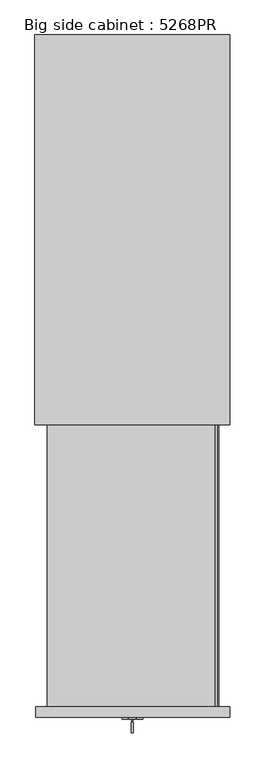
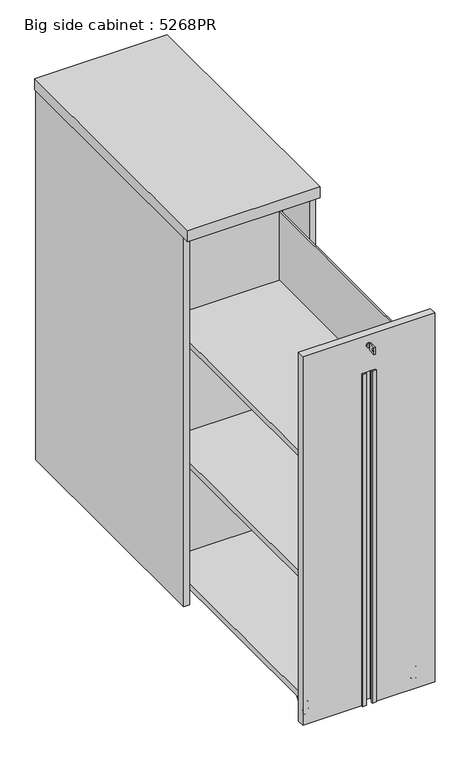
"""IFC4 building model written with IfcOpenShell, lengths in millimetres: furniture geometry, Big side cabinet : 5268PR."""

from ifc_helpers import new_model, si_unit, point, frame, frame_2d, origin, origin_with_axes, place, context, project, spatial, polyline, circle_curve, ellipse_curve, trimmed, segment, composite_curve, outline, extrude, source, transform, mapped, element, save
from ifc_brep_helpers import plane_surface, cylinder_surface, revolved_surface, advanced_brep


def big_side_cabinet_5268pr_65438aac(model_context):
    return source(origin(), model_context, "Body", "SolidModel", [
        extrude(outline(polyline([(1.5783188, 20.1617145), (1.5783188, 10.1617145), (-8.4216812, 10.1617145), (-8.4216812, 20.1617145), (1.5783188, 20.1617145)])), origin_with_axes(), (0.0, 0.0, 1.0), 10.0),
        extrude(outline(polyline([(180.5000002, 798.0), (198.5, 798.0), (198.5, 22.9999769), (180.5000002, 22.9999769), (180.5000002, 798.0)])), frame((0.0, 0.0, 5.0), z_axis=(0.0, 0.0, 1.0), x_axis=(1.0, 0.0, 0.0)), (0.0, 0.0, 1.0), 1180.0),
        extrude(outline(polyline([(-180.5000002, 778.4999997), (-180.5000002, 790.9999997), (180.5000002, 790.9999997), (180.5000002, 778.4999997), (-180.5000002, 778.4999997)])), frame((0.0, 0.0, 5.0), z_axis=(0.0, 0.0, 1.0), x_axis=(1.0, 0.0, 0.0)), (0.0, 0.0, 1.0), 1180.0),
        extrude(outline(polyline([(-180.5000002, 798.0), (-180.5000002, 22.9999769), (-198.5, 22.9999769), (-198.5, 798.0), (-180.5000002, 798.0)])), frame((0.0, 0.0, 5.0), z_axis=(0.0, 0.0, 1.0), x_axis=(1.0, 0.0, 0.0)), (0.0, 0.0, 1.0), 1180.0),
        extrude(outline(polyline([(180.5000002, 70.0000151), (-180.5000002, 70.0000151), (-180.5000002, 738.5000021), (180.5000002, 738.5000021), (180.5000002, 70.0000151)])), frame((0.0, 0.0, 20.0583505), z_axis=(0.0, 0.0, 1.0), x_axis=(1.0, 0.0, 0.0)), (0.0, 0.0, 1.0), 17.9999982),
        extrude(outline(polyline([(200.0, 0.0), (-200.0, 0.0), (-200.0, 800.0), (200.0, 800.0), (200.0, 0.0)])), frame((0.0, 0.0, 1185.0), z_axis=(0.0, 0.0, 1.0), x_axis=(1.0, 0.0, 0.0)), (0.0, 0.0, 1.0), 35.0),
        extrude(outline(composite_curve([segment(trimmed(circle_curve(frame_2d((-160.5000002, 706.0000021)), 20.0), [point((-180.5000002, 706.0000021))], [point((-140.5000002, 706.0000021))], False, "CARTESIAN"), True, "CONTINUOUS"), segment(trimmed(circle_curve(frame_2d((-160.5000002, 706.0000021)), 20.0), [point((-140.5000002, 706.0000021))], [point((-180.5000002, 706.0000021))], False, "CARTESIAN"), True, "CONTINUOUS")], self_intersect=False)), origin_with_axes(), (0.0, 0.0, 1.0), 19.0539492),
        extrude(outline(composite_curve([segment(trimmed(circle_curve(frame_2d((-160.5000002, 98.9999918)), 20.0), [point((-180.5000002, 98.9999918))], [point((-140.5000002, 98.9999918))], False, "CARTESIAN"), True, "CONTINUOUS"), segment(trimmed(circle_curve(frame_2d((-160.5000002, 98.9999918)), 20.0), [point((-140.5000002, 98.9999918))], [point((-180.5000002, 98.9999918))], False, "CARTESIAN"), True, "CONTINUOUS")], self_intersect=False)), origin_with_axes(), (0.0, 0.0, 1.0), 19.0539492),
        extrude(outline(composite_curve([segment(trimmed(circle_curve(frame_2d((160.5000002, 706.0000021)), 20.0), [point((140.5000002, 706.0000021))], [point((180.5000002, 706.0000021))], False, "CARTESIAN"), True, "CONTINUOUS"), segment(trimmed(circle_curve(frame_2d((160.5000002, 706.0000021)), 20.0), [point((180.5000002, 706.0000021))], [point((140.5000002, 706.0000021))], False, "CARTESIAN"), True, "CONTINUOUS")], self_intersect=False)), origin_with_axes(), (0.0, 0.0, 1.0), 19.0539492),
        extrude(outline(composite_curve([segment(trimmed(circle_curve(frame_2d((160.5000002, 98.9999918)), 20.0), [point((140.5000002, 98.9999918))], [point((180.5000002, 98.9999918))], False, "CARTESIAN"), True, "CONTINUOUS"), segment(trimmed(circle_curve(frame_2d((160.5000002, 98.9999918)), 20.0), [point((180.5000002, 98.9999918))], [point((140.5000002, 98.9999918))], False, "CARTESIAN"), True, "CONTINUOUS")], self_intersect=False)), origin_with_axes(), (0.0, 0.0, 1.0), 19.0539492),
        advanced_brep(
        [(155.997354, -548.0000393, 10.5), (158.25, -548.0000393, 12.752646), (158.25, -548.0000393, 29.247354), (155.997354, -548.0000393, 31.5), (155.997354, -548.0000393, 3.0456405), (155.997354, -548.0000393, 38.9543595), (159.0429945, -548.0000393, 0.0), (159.0429945, -548.0000393, 42.0), (162.5, -548.0000393, 0.0), (162.5, -548.0000393, 42.0), (162.5, -548.0000393, 16.75), (162.5, -548.0000393, 25.25), (158.25, -548.0000393, 16.75), (158.25, -548.0000393, 25.25)],
        [
            (0, 1),
            (1, 2, circle_curve(frame((158.25, -548.0000393, 21.0), z_axis=(1.0, 0.0, 0.0), x_axis=(0.0, 0.0, 1.0)), 8.247354)),
            (2, 3),
            (3, 0, circle_curve(frame((155.997354, -548.0000393, 21.0), z_axis=(-1.0, 0.0, 0.0), x_axis=(0.0, 0.0, 1.0)), 10.5)),
            (2, 1, circle_curve(frame((158.25, -548.0000393, 21.0), z_axis=(1.0, 0.0, 0.0), x_axis=(0.0, 0.0, 1.0)), 8.247354)),
            (0, 3, circle_curve(frame((155.997354, -548.0000393, 21.0), z_axis=(-1.0, 0.0, 0.0), x_axis=(0.0, 0.0, 1.0)), 10.5)),
            (4, 0),
            (3, 5),
            (5, 4, circle_curve(frame((155.997354, -548.0000393, 21.0), z_axis=(-1.0, 0.0, 0.0), x_axis=(0.0, 0.0, 1.0)), 17.9543595)),
            (4, 5, circle_curve(frame((155.997354, -548.0000393, 21.0), z_axis=(-1.0, 0.0, 0.0), x_axis=(0.0, 0.0, 1.0)), 17.9543595)),
            (6, 4, circle_curve(frame((159.0429945, -548.0000393, 3.0456405), z_axis=(0.0, 1.0, 0.0), x_axis=(-1.0, 0.0, 0.0)), 3.0456405)),
            (5, 7, circle_curve(frame((159.0429945, -548.0000393, 38.9543595), z_axis=(0.0, 1.0, 0.0), x_axis=(-1.0, 0.0, 0.0)), 3.0456405)),
            (7, 6, circle_curve(frame((159.0429945, -548.0000393, 21.0), z_axis=(-1.0, 0.0, 0.0), x_axis=(0.0, 0.0, 1.0)), 21.0)),
            (6, 7, circle_curve(frame((159.0429945, -548.0000393, 21.0), z_axis=(-1.0, 0.0, 0.0), x_axis=(0.0, 0.0, 1.0)), 21.0)),
            (8, 6),
            (7, 9),
            (9, 8, circle_curve(frame((162.5, -548.0000393, 21.0), z_axis=(-1.0, 0.0, 0.0), x_axis=(0.0, 0.0, 1.0)), 21.0)),
            (8, 9, circle_curve(frame((162.5, -548.0000393, 21.0), z_axis=(-1.0, 0.0, 0.0), x_axis=(0.0, 0.0, 1.0)), 21.0)),
            (10, 8),
            (9, 11),
            (11, 10, circle_curve(frame((162.5, -548.0000393, 21.0), z_axis=(-1.0, 0.0, 0.0), x_axis=(0.0, 0.0, 1.0)), 4.25)),
            (10, 11, circle_curve(frame((162.5, -548.0000393, 21.0), z_axis=(-1.0, 0.0, 0.0), x_axis=(0.0, 0.0, 1.0)), 4.25)),
            (12, 10),
            (11, 13),
            (13, 12, circle_curve(frame((158.25, -548.0000393, 21.0), z_axis=(-1.0, 0.0, 0.0), x_axis=(0.0, 0.0, 1.0)), 4.25)),
            (12, 13, circle_curve(frame((158.25, -548.0000393, 21.0), z_axis=(-1.0, 0.0, 0.0), x_axis=(0.0, 0.0, 1.0)), 4.25)),
            (1, 12),
            (13, 2),
        ],
        [
            revolved_surface(polyline([(158.25, -548.0000393, 29.247354), (155.997354, -548.0000393, 31.5)]), (135.5019942, -548.0000393, 21.0), (1.0, 0.0, 0.0)),
            plane_surface(frame((155.997354, -548.0000393, 21.0), z_axis=(-1.0, 0.0, 0.0), x_axis=(0.0, 0.0, 1.0))),
            revolved_surface(trimmed(ellipse_curve(frame((159.0429945, -548.0000393, 38.9543595), z_axis=(0.0, 1.0, 0.0), x_axis=(-1.0, 0.0, 0.0)), 3.0456405, 3.0456405), [point((155.997354, -548.0000393, 38.9543595))], [point((159.0429945, -548.0000393, 42.0))], True, "CARTESIAN"), (135.5019942, -548.0000393, 21.0), (1.0, 0.0, 0.0)),
            cylinder_surface(frame((135.5019942, -548.0000393, 21.0), z_axis=(1.0, 0.0, 0.0), x_axis=(0.0, 0.0, 1.0)), 21.0),
            plane_surface(frame((162.5, -548.0000393, 21.0), z_axis=(1.0, 0.0, 0.0), x_axis=(0.0, 0.0, 1.0))),
            revolved_surface(polyline([(162.5, -548.0000393, 25.25), (158.25, -548.0000393, 25.25)]), (135.5019942, -548.0000393, 21.0), (1.0, 0.0, 0.0)),
            plane_surface(frame((158.25, -548.0000393, 21.0), z_axis=(-1.0, 0.0, 0.0), x_axis=(0.0, 0.0, 1.0))),
        ],
        [
            (0, [[1, 2, 3, 4]]),
            (0, [[-3, 5, -1, 6]]),
            (1, [[7, -4, 8, 9]]),
            (1, [[-8, -6, -7, 10]]),
            (2, [[11, -9, 12, 13]]),
            (2, [[-12, -10, -11, 14]]),
            (3, [[15, -13, 16, 17]]),
            (3, [[-16, -14, -15, 18]]),
            (4, [[19, -17, 20, 21]]),
            (4, [[-20, -18, -19, 22]]),
            (5, [[23, -21, 24, 25]]),
            (5, [[-24, -22, -23, 26]]),
            (6, [[27, -25, 28, -2]]),
            (6, [[-28, -26, -27, -5]]),
        ],
    ),
        advanced_brep(
        [(174.351441, -548.0000393, 25.0), (174.351441, -548.0000393, 21.0), (174.351441, -548.0000393, 17.0), (169.8769483, -548.0000393, 17.0), (169.8769483, -548.0000393, 25.0)],
        [
            (0, 1),
            (1, 2),
            (2, 0, circle_curve(frame((174.351441, -548.0000393, 21.0), z_axis=(1.0, 0.0, 0.0), x_axis=(0.0, 0.0, -1.0)), 4.0)),
            (0, 2, circle_curve(frame((174.351441, -548.0000393, 21.0), z_axis=(1.0, 0.0, 0.0), x_axis=(0.0, 0.0, -1.0)), 4.0)),
            (2, 3),
            (3, 4, circle_curve(frame((169.8769483, -548.0000393, 21.0), z_axis=(1.0, 0.0, 0.0), x_axis=(0.0, 0.0, -1.0)), 4.0)),
            (4, 0),
            (4, 3, circle_curve(frame((169.8769483, -548.0000393, 21.0), z_axis=(1.0, 0.0, 0.0), x_axis=(0.0, 0.0, -1.0)), 4.0)),
        ],
        [
            plane_surface(frame((174.351441, -548.0000393, 21.0), z_axis=(1.0, 0.0, 0.0), x_axis=(0.0, 0.0, -1.0))),
            cylinder_surface(frame((142.5, -548.0000393, 21.0), z_axis=(-1.0, 0.0, 0.0), x_axis=(0.0, 0.0, -1.0)), 4.0),
            plane_surface(frame((169.8769483, -572.0000393, 46.0), z_axis=(-1.0, 0.0, 0.0), x_axis=(0.0, 1.0, 0.0))),
        ],
        [
            (0, [[1, 2, 3]]),
            (0, [[-1, 4, -2]]),
            (1, [[5, 6, 7, -3]]),
            (1, [[-7, 8, -5, -4]]),
            (2, [[-8, -6]]),
        ],
    ),
        advanced_brep(
        [(150.5708052, -548.0000393, 25.0), (155.0, -548.0000393, 25.0), (155.0, -548.0000393, 17.0), (150.5708052, -548.0000393, 17.0), (150.5708052, -548.0000393, 21.0)],
        [
            (0, 1),
            (1, 2, circle_curve(frame((155.0, -548.0000393, 21.0), z_axis=(-1.0, 0.0, 0.0), x_axis=(0.0, 0.0, -1.0)), 4.0)),
            (2, 3),
            (3, 0, circle_curve(frame((150.5708052, -548.0000393, 21.0), z_axis=(1.0, 0.0, 0.0), x_axis=(0.0, 0.0, -1.0)), 4.0)),
            (2, 1, circle_curve(frame((155.0, -548.0000393, 21.0), z_axis=(-1.0, 0.0, 0.0), x_axis=(0.0, 0.0, -1.0)), 4.0)),
            (0, 3, circle_curve(frame((150.5708052, -548.0000393, 21.0), z_axis=(1.0, 0.0, 0.0), x_axis=(0.0, 0.0, -1.0)), 4.0)),
            (3, 4),
            (4, 0),
        ],
        [
            cylinder_surface(frame((142.5, -548.0000393, 21.0), z_axis=(-1.0, 0.0, 0.0), x_axis=(0.0, 0.0, -1.0)), 4.0),
            plane_surface(frame((150.5708052, -548.0000393, 21.0), z_axis=(-1.0, 0.0, 0.0), x_axis=(0.0, 0.0, -1.0))),
            plane_surface(frame((155.0, -572.0000393, 0.0), z_axis=(1.0, 0.0, 0.0), x_axis=(0.0, 1.0, 0.0))),
        ],
        [
            (0, [[1, 2, 3, 4]]),
            (0, [[-3, 5, -1, 6]]),
            (1, [[7, 8, -4]]),
            (1, [[-8, -7, -6]]),
            (2, [[-5, -2]]),
        ],
    ),
        advanced_brep(
        [(166.75, -548.0000393, 12.752646), (169.002646, -548.0000393, 10.5), (169.002646, -548.0000393, 31.5), (166.75, -548.0000393, 29.247354), (169.002646, -548.0000393, 3.0456405), (169.002646, -548.0000393, 38.9543595), (165.9570055, -548.0000393, 0.0), (165.9570055, -548.0000393, 42.0), (162.5, -548.0000393, 0.0), (162.5, -548.0000393, 42.0), (162.5, -548.0000393, 21.0), (166.75, -548.0000393, 21.0)],
        [
            (0, 1),
            (1, 2, circle_curve(frame((169.002646, -548.0000393, 21.0), z_axis=(1.0, 0.0, 0.0), x_axis=(0.0, 0.0, 1.0)), 10.5)),
            (2, 3),
            (3, 0, circle_curve(frame((166.75, -548.0000393, 21.0), z_axis=(-1.0, 0.0, 0.0), x_axis=(0.0, 0.0, 1.0)), 8.247354)),
            (2, 1, circle_curve(frame((169.002646, -548.0000393, 21.0), z_axis=(1.0, 0.0, 0.0), x_axis=(0.0, 0.0, 1.0)), 10.5)),
            (0, 3, circle_curve(frame((166.75, -548.0000393, 21.0), z_axis=(-1.0, 0.0, 0.0), x_axis=(0.0, 0.0, 1.0)), 8.247354)),
            (1, 4),
            (4, 5, circle_curve(frame((169.002646, -548.0000393, 21.0), z_axis=(1.0, 0.0, 0.0), x_axis=(0.0, 0.0, 1.0)), 17.9543595)),
            (5, 2),
            (5, 4, circle_curve(frame((169.002646, -548.0000393, 21.0), z_axis=(1.0, 0.0, 0.0), x_axis=(0.0, 0.0, 1.0)), 17.9543595)),
            (4, 6, circle_curve(frame((165.9570055, -548.0000393, 3.0456405), z_axis=(0.0, 1.0, 0.0), x_axis=(1.0, 0.0, 0.0)), 3.0456405)),
            (6, 7, circle_curve(frame((165.9570055, -548.0000393, 21.0), z_axis=(1.0, 0.0, 0.0), x_axis=(0.0, 0.0, 1.0)), 21.0)),
            (7, 5, circle_curve(frame((165.9570055, -548.0000393, 38.9543595), z_axis=(0.0, 1.0, 0.0), x_axis=(1.0, 0.0, 0.0)), 3.0456405)),
            (7, 6, circle_curve(frame((165.9570055, -548.0000393, 21.0), z_axis=(1.0, 0.0, 0.0), x_axis=(0.0, 0.0, 1.0)), 21.0)),
            (6, 8),
            (8, 9, circle_curve(frame((162.5, -548.0000393, 21.0), z_axis=(1.0, 0.0, 0.0), x_axis=(0.0, 0.0, 1.0)), 21.0)),
            (9, 7),
            (9, 8, circle_curve(frame((162.5, -548.0000393, 21.0), z_axis=(1.0, 0.0, 0.0), x_axis=(0.0, 0.0, 1.0)), 21.0)),
            (8, 10),
            (10, 9),
            (11, 0),
            (3, 11),
        ],
        [
            revolved_surface(polyline([(169.002646, -548.0000393, 31.5), (166.75, -548.0000393, 29.247354)]), (189.4980058, -548.0000393, 21.0), (1.0, 0.0, 0.0)),
            plane_surface(frame((169.002646, -548.0000393, 21.0), z_axis=(1.0, 0.0, 0.0), x_axis=(0.0, 0.0, 1.0))),
            revolved_surface(trimmed(ellipse_curve(frame((165.9570055, -548.0000393, 38.9543595), z_axis=(0.0, 1.0, 0.0), x_axis=(1.0, 0.0, 0.0)), 3.0456405, 3.0456405), [point((165.9570055, -548.0000393, 42.0))], [point((169.002646, -548.0000393, 38.9543595))], True, "CARTESIAN"), (189.4980058, -548.0000393, 21.0), (1.0, 0.0, 0.0)),
            cylinder_surface(frame((189.4980058, -548.0000393, 21.0), z_axis=(1.0, 0.0, 0.0), x_axis=(0.0, 0.0, 1.0)), 21.0),
            plane_surface(frame((162.5, -548.0000393, 21.0), z_axis=(-1.0, 0.0, 0.0), x_axis=(0.0, 0.0, 1.0))),
            plane_surface(frame((166.75, -548.0000393, 21.0), z_axis=(1.0, 0.0, 0.0), x_axis=(0.0, 0.0, 1.0))),
        ],
        [
            (0, [[1, 2, 3, 4]]),
            (0, [[-3, 5, -1, 6]]),
            (1, [[7, 8, 9, -2]]),
            (1, [[-9, 10, -7, -5]]),
            (2, [[11, 12, 13, -8]]),
            (2, [[-13, 14, -11, -10]]),
            (3, [[15, 16, 17, -12]]),
            (3, [[-17, 18, -15, -14]]),
            (4, [[19, 20, -16]]),
            (4, [[-20, -19, -18]]),
            (5, [[21, -4, 22]]),
            (5, [[-22, -6, -21]]),
        ],
    ),
        advanced_brep(
        [(152.5, -524.0000393, 48.0), (152.5, -524.0000393, 42.0), (152.5, -540.0000393, 21.0), (152.5, -556.0000393, 21.0), (152.5, -572.0000393, 42.0), (152.5, -572.0000393, 48.0), (172.5, -524.0000393, 48.0), (172.5, -572.0000393, 48.0), (172.5, -572.0000393, 42.0), (172.5, -556.0000393, 21.0), (172.5, -540.0000393, 21.0), (172.5, -524.0000393, 42.0), (169.8769483, -556.0000393, 21.0), (169.8769483, -540.0000393, 21.0), (155.0, -540.0000393, 21.0), (155.0, -556.0000393, 21.0), (155.0, -572.0000393, 42.0), (155.0, -572.0000393, 46.0), (169.8769483, -572.0000393, 46.0), (169.8769483, -572.0000393, 42.0), (169.8769483, -524.0000393, 42.0), (169.8769483, -524.0000393, 46.0), (155.0, -524.0000393, 46.0), (155.0, -524.0000393, 42.0)],
        [
            (0, 1),
            (1, 2),
            (2, 3, circle_curve(frame((152.5, -548.0000393, 21.0), z_axis=(-1.0, 0.0, 0.0), x_axis=(0.0, -1.0, 0.0)), 8.0)),
            (3, 4),
            (4, 5),
            (5, 0),
            (6, 7),
            (7, 8),
            (8, 9),
            (9, 10, circle_curve(frame((172.5, -548.0000393, 21.0), z_axis=(1.0, 0.0, 0.0), x_axis=(0.0, -1.0, 0.0)), 8.0)),
            (10, 11),
            (11, 6),
            (5, 7),
            (6, 0),
            (9, 12),
            (12, 13, circle_curve(frame((169.8769483, -548.0000393, 21.0), z_axis=(1.0, 0.0, 0.0), x_axis=(0.0, -1.0, 0.0)), 8.0)),
            (13, 10),
            (2, 14),
            (14, 15, circle_curve(frame((155.0, -548.0000393, 21.0), z_axis=(-1.0, 0.0, 0.0), x_axis=(0.0, -1.0, 0.0)), 8.0)),
            (15, 3),
            (4, 16),
            (16, 17),
            (17, 18),
            (18, 19),
            (19, 8),
            (11, 20),
            (20, 21),
            (21, 22),
            (22, 23),
            (23, 1),
            (17, 22),
            (21, 18),
            (16, 15),
            (14, 23),
            (20, 13),
            (12, 19),
        ],
        [
            plane_surface(frame((152.5, -572.0000393, 48.0), z_axis=(-1.0, 0.0, 0.0), x_axis=(0.0, -1.0, 0.0))),
            plane_surface(frame((172.5, -572.0000393, 48.0), z_axis=(1.0, 0.0, 0.0), x_axis=(0.0, 1.0, 0.0))),
            plane_surface(frame((152.5, -524.0000393, 48.0), z_axis=(0.0, 0.0, 1.0), x_axis=(1.0, 0.0, 0.0))),
            cylinder_surface(frame((172.5, -548.0000393, 21.0), z_axis=(-1.0, 0.0, 0.0), x_axis=(0.0, -1.0, 0.0)), 8.0),
            plane_surface(frame((152.5, -572.0000393, 48.0), z_axis=(0.0, -1.0, 0.0), x_axis=(1.0, 0.0, 0.0))),
            plane_surface(frame((152.5, -524.0000393, 42.0), z_axis=(0.0, 1.0, 0.0), x_axis=(1.0, 0.0, 0.0))),
            plane_surface(frame((155.0, -572.0000393, 46.0), z_axis=(0.0, 0.0, -1.0), x_axis=(0.0, 1.0, 0.0))),
            plane_surface(frame((155.0, -572.0000393, 0.0), z_axis=(1.0, 0.0, 0.0), x_axis=(0.0, 1.0, 0.0))),
            plane_surface(frame((169.8769483, -572.0000393, 46.0), z_axis=(-1.0, 0.0, 0.0), x_axis=(0.0, 1.0, 0.0))),
            plane_surface(frame((152.5, -572.0000393, 42.0), z_axis=(0.0, -0.7954317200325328, -0.6060432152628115), x_axis=(1.0, 0.0, 0.0))),
            plane_surface(frame((152.5, -540.0000393, 21.0), z_axis=(0.0, 0.7954317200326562, -0.6060432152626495), x_axis=(1.0, 0.0, 0.0))),
        ],
        [
            (0, [[1, 2, 3, 4, 5, 6]]),
            (1, [[7, 8, 9, 10, 11, 12]]),
            (2, [[13, -7, 14, -6]]),
            (3, [[15, 16, 17, -10]]),
            (3, [[18, 19, 20, -3]]),
            (4, [[21, 22, 23, 24, 25, -8, -13, -5]]),
            (5, [[-14, -12, 26, 27, 28, 29, 30, -1]]),
            (6, [[-23, 31, -28, 32]]),
            (7, [[-22, 33, -19, 34, -29, -31]]),
            (8, [[-27, 35, -16, 36, -24, -32]]),
            (9, [[-20, -33, -21, -4]]),
            (9, [[-25, -36, -15, -9]]),
            (10, [[-30, -34, -18, -2]]),
            (10, [[-17, -35, -26, -11]]),
        ],
    ),
        extrude(outline(polyline([(-632.0000046, 1139.014113), (-632.0000046, 1161.0), (-610.0000046, 1161.0), (-610.0000046, 1139.014113), (-632.0000046, 1139.014113)]), holes=[composite_curve([segment(trimmed(circle_curve(frame_2d((-625.7500046, 1150.0070565)), 3.2230706), [point((-625.7500046, 1153.2301271))], [point((-625.7500046, 1146.7839859))], True, "CARTESIAN"), True, "CONTINUOUS"), segment(trimmed(circle_curve(frame_2d((-625.7500046, 1150.0070565)), 3.2230706), [point((-625.7500046, 1146.7839859))], [point((-625.7500046, 1153.2301271))], True, "CARTESIAN"), True, "CONTINUOUS")], self_intersect=False)]), frame((-2.0, 0.0, 0.0), z_axis=(1.0, 0.0, 0.0), x_axis=(0.0, 1.0, 0.0)), (0.0, 0.0, 1.0), 4.0416064),
        extrude(outline(polyline([(1.0416064, -610.0000046), (-1.0, -610.0000046), (-1.0, -604.0000046), (1.0416064, -604.0000046), (1.0416064, -610.0000046)])), frame((0.0, 0.0, 1146.014113), z_axis=(0.0, 0.0, 1.0), x_axis=(1.0, 0.0, 0.0)), (0.0, 0.0, 1.0), 7.985887),
        extrude(outline(composite_curve([segment(trimmed(circle_curve(frame_2d((1150.0, 0.0)), 7.0), [point((1150.0, -7.0))], [point((1150.0, 7.0))], False, "CARTESIAN"), True, "CONTINUOUS"), segment(trimmed(circle_curve(frame_2d((1150.0, 0.0)), 7.0), [point((1150.0, 7.0))], [point((1150.0, -7.0))], False, "CARTESIAN"), True, "CONTINUOUS")], self_intersect=False)), frame((0.0, -604.0000046, 0.0), z_axis=(0.0, 1.0, 0.0), x_axis=(0.0, 0.0, 1.0)), (0.0, 0.0, 1.0), 4.0),
        extrude(outline(polyline([(1182.0, 200.0000015), (1182.0, -198.5000015), (5.0, -198.5000015), (5.0, -17.7500067), (1065.0, -17.7500067), (1065.0, 17.7500067), (5.0, 17.7500067), (5.0, 200.0000015), (1182.0, 200.0000015)])), frame((0.0, -600.0000046, 0.0), z_axis=(0.0, 1.0, 0.0), x_axis=(0.0, 0.0, 1.0)), (0.0, 0.0, 1.0), 21.9999653),
        extrude(outline(polyline([(-21.2499929, -604.2058707), (-21.2499929, -600.0000046), (-17.7500067, -600.0000046), (-17.7500067, -578.0000393), (17.7500067, -578.0000393), (17.7500067, -600.0000046), (21.2499929, -600.0000046), (21.2499929, -604.2058707), (9.2499986, -604.2058707), (9.2499986, -598.4780496), (15.9519183, -595.3528931), (15.9519183, -580.3528931), (-15.9519183, -580.3528931), (-15.9519183, -595.3528931), (-9.2499986, -598.4780496), (-9.2499986, -604.2058707), (-21.2499929, -604.2058707)])), frame((0.0, 0.0, 5.0), z_axis=(0.0, 0.0, 1.0), x_axis=(1.0, 0.0, 0.0)), (0.0, 0.0, 1.0), 1060.0),
        extrude(outline(polyline([(169.8004833, -578.0000046), (169.8004833, 160.5000143), (173.7499883, 160.5000143), (173.7499883, -578.0000046), (169.8004833, -578.0000046)])), frame((0.0, 0.0, 836.0), z_axis=(0.0, 0.0, 1.0), x_axis=(1.0, 0.0, 0.0)), (0.0, 0.0, 1.0), 220.0),
        extrude(outline(polyline([(169.8004833, -578.0000046), (169.8004833, 160.5000143), (173.7499883, 160.5000143), (173.7499883, -578.0000046), (169.8004833, -578.0000046)])), frame((0.0, 0.0, 451.0), z_axis=(0.0, 0.0, 1.0), x_axis=(1.0, 0.0, 0.0)), (0.0, 0.0, 1.0), 220.0),
        extrude(outline(polyline([(169.8004833, -578.0000046), (169.8004833, 160.5000143), (173.7499883, 160.5000143), (173.7499883, -578.0000046), (169.8004833, -578.0000046)])), frame((0.0, 0.0, 66.0), z_axis=(0.0, 0.0, 1.0), x_axis=(1.0, 0.0, 0.0)), (0.0, 0.0, 1.0), 220.0),
        advanced_brep(
        [(-155.997354, -548.0000393, 10.5), (-155.997354, -548.0000393, 31.5), (-158.25, -548.0000393, 29.247354), (-158.25, -548.0000393, 12.752646), (-155.997354, -548.0000393, 3.0456405), (-155.997354, -548.0000393, 38.9543595), (-159.0429945, -548.0000393, 0.0), (-159.0429945, -548.0000393, 42.0), (-162.5, -548.0000393, 0.0), (-162.5, -548.0000393, 42.0), (-162.5, -548.0000393, 16.75), (-162.5, -548.0000393, 25.25), (-158.25, -548.0000393, 16.75), (-158.25, -548.0000393, 25.25)],
        [
            (0, 1, circle_curve(frame((-155.997354, -548.0000393, 21.0), z_axis=(1.0, 0.0, 0.0), x_axis=(0.0, 0.0, 1.0)), 10.5)),
            (1, 2),
            (2, 3, circle_curve(frame((-158.25, -548.0000393, 21.0), z_axis=(-1.0, 0.0, 0.0), x_axis=(0.0, 0.0, 1.0)), 8.247354)),
            (3, 0),
            (1, 0, circle_curve(frame((-155.997354, -548.0000393, 21.0), z_axis=(1.0, 0.0, 0.0), x_axis=(0.0, 0.0, 1.0)), 10.5)),
            (3, 2, circle_curve(frame((-158.25, -548.0000393, 21.0), z_axis=(-1.0, 0.0, 0.0), x_axis=(0.0, 0.0, 1.0)), 8.247354)),
            (4, 5, circle_curve(frame((-155.997354, -548.0000393, 21.0), z_axis=(1.0, 0.0, 0.0), x_axis=(0.0, 0.0, 1.0)), 17.9543595)),
            (5, 1),
            (0, 4),
            (5, 4, circle_curve(frame((-155.997354, -548.0000393, 21.0), z_axis=(1.0, 0.0, 0.0), x_axis=(0.0, 0.0, 1.0)), 17.9543595)),
            (6, 7, circle_curve(frame((-159.0429945, -548.0000393, 21.0), z_axis=(1.0, 0.0, 0.0), x_axis=(0.0, 0.0, 1.0)), 21.0)),
            (7, 5, circle_curve(frame((-159.0429945, -548.0000393, 38.9543595), z_axis=(0.0, 1.0, 0.0), x_axis=(1.0, 0.0, 0.0)), 3.0456405)),
            (4, 6, circle_curve(frame((-159.0429945, -548.0000393, 3.0456405), z_axis=(0.0, 1.0, 0.0), x_axis=(1.0, 0.0, 0.0)), 3.0456405)),
            (7, 6, circle_curve(frame((-159.0429945, -548.0000393, 21.0), z_axis=(1.0, 0.0, 0.0), x_axis=(0.0, 0.0, 1.0)), 21.0)),
            (8, 9, circle_curve(frame((-162.5, -548.0000393, 21.0), z_axis=(1.0, 0.0, 0.0), x_axis=(0.0, 0.0, 1.0)), 21.0)),
            (9, 7),
            (6, 8),
            (9, 8, circle_curve(frame((-162.5, -548.0000393, 21.0), z_axis=(1.0, 0.0, 0.0), x_axis=(0.0, 0.0, 1.0)), 21.0)),
            (10, 11, circle_curve(frame((-162.5, -548.0000393, 21.0), z_axis=(1.0, 0.0, 0.0), x_axis=(0.0, 0.0, 1.0)), 4.25)),
            (11, 9),
            (8, 10),
            (11, 10, circle_curve(frame((-162.5, -548.0000393, 21.0), z_axis=(1.0, 0.0, 0.0), x_axis=(0.0, 0.0, 1.0)), 4.25)),
            (12, 13, circle_curve(frame((-158.25, -548.0000393, 21.0), z_axis=(1.0, 0.0, 0.0), x_axis=(0.0, 0.0, 1.0)), 4.25)),
            (13, 11),
            (10, 12),
            (13, 12, circle_curve(frame((-158.25, -548.0000393, 21.0), z_axis=(1.0, 0.0, 0.0), x_axis=(0.0, 0.0, 1.0)), 4.25)),
            (2, 13),
            (12, 3),
        ],
        [
            revolved_surface(polyline([(-158.25, -548.0000393, 29.247354), (-155.997354, -548.0000393, 31.5)]), (-135.5019942, -548.0000393, 21.0), (-1.0, 0.0, 0.0)),
            plane_surface(frame((-155.997354, -548.0000393, 21.0), z_axis=(1.0, 0.0, 0.0), x_axis=(0.0, 0.0, 1.0))),
            revolved_surface(trimmed(ellipse_curve(frame((-159.0429945, -548.0000393, 38.9543595), z_axis=(0.0, -1.0, 0.0), x_axis=(1.0, 0.0, 0.0)), 3.0456405, 3.0456405), [point((-155.997354, -548.0000393, 38.9543595))], [point((-159.0429945, -548.0000393, 42.0))], True, "CARTESIAN"), (-135.5019942, -548.0000393, 21.0), (-1.0, 0.0, 0.0)),
            cylinder_surface(frame((-135.5019942, -548.0000393, 21.0), z_axis=(-1.0, 0.0, 0.0), x_axis=(0.0, 0.0, 1.0)), 21.0),
            plane_surface(frame((-162.5, -548.0000393, 21.0), z_axis=(-1.0, 0.0, 0.0), x_axis=(0.0, 0.0, 1.0))),
            revolved_surface(polyline([(-162.5, -548.0000393, 25.25), (-158.25, -548.0000393, 25.25)]), (-135.5019942, -548.0000393, 21.0), (-1.0, 0.0, 0.0)),
            plane_surface(frame((-158.25, -548.0000393, 21.0), z_axis=(1.0, 0.0, 0.0), x_axis=(0.0, 0.0, 1.0))),
        ],
        [
            (0, [[1, 2, 3, 4]]),
            (0, [[5, -4, 6, -2]]),
            (1, [[7, 8, -1, 9]]),
            (1, [[10, -9, -5, -8]]),
            (2, [[11, 12, -7, 13]]),
            (2, [[14, -13, -10, -12]]),
            (3, [[15, 16, -11, 17]]),
            (3, [[18, -17, -14, -16]]),
            (4, [[19, 20, -15, 21]]),
            (4, [[22, -21, -18, -20]]),
            (5, [[23, 24, -19, 25]]),
            (5, [[26, -25, -22, -24]]),
            (6, [[-3, 27, -23, 28]]),
            (6, [[-6, -28, -26, -27]]),
        ],
    ),
        advanced_brep(
        [(-174.351441, -548.0000393, 25.0), (-174.351441, -548.0000393, 17.0), (-174.351441, -548.0000393, 21.0), (-169.8769483, -548.0000393, 25.0), (-169.8769483, -548.0000393, 17.0)],
        [
            (0, 1, circle_curve(frame((-174.351441, -548.0000393, 21.0), z_axis=(-1.0, 0.0, 0.0), x_axis=(0.0, 0.0, -1.0)), 4.0)),
            (1, 2),
            (2, 0),
            (1, 0, circle_curve(frame((-174.351441, -548.0000393, 21.0), z_axis=(-1.0, 0.0, 0.0), x_axis=(0.0, 0.0, -1.0)), 4.0)),
            (0, 3),
            (3, 4, circle_curve(frame((-169.8769483, -548.0000393, 21.0), z_axis=(-1.0, 0.0, 0.0), x_axis=(0.0, 0.0, -1.0)), 4.0)),
            (4, 1),
            (4, 3, circle_curve(frame((-169.8769483, -548.0000393, 21.0), z_axis=(-1.0, 0.0, 0.0), x_axis=(0.0, 0.0, -1.0)), 4.0)),
        ],
        [
            plane_surface(frame((-174.351441, -548.0000393, 21.0), z_axis=(-1.0, 0.0, 0.0), x_axis=(0.0, 0.0, -1.0))),
            cylinder_surface(frame((-142.5, -548.0000393, 21.0), z_axis=(1.0, 0.0, 0.0), x_axis=(0.0, 0.0, -1.0)), 4.0),
            plane_surface(frame((-169.8769483, -572.0000393, 46.0), z_axis=(1.0, 0.0, 0.0), x_axis=(0.0, 1.0, 0.0))),
        ],
        [
            (0, [[1, 2, 3]]),
            (0, [[-2, 4, -3]]),
            (1, [[-1, 5, 6, 7]]),
            (1, [[-4, -7, 8, -5]]),
            (2, [[-6, -8]]),
        ],
    ),
        advanced_brep(
        [(-150.5708052, -548.0000393, 25.0), (-150.5708052, -548.0000393, 17.0), (-155.0, -548.0000393, 17.0), (-155.0, -548.0000393, 25.0), (-150.5708052, -548.0000393, 21.0)],
        [
            (0, 1, circle_curve(frame((-150.5708052, -548.0000393, 21.0), z_axis=(-1.0, 0.0, 0.0), x_axis=(0.0, 0.0, -1.0)), 4.0)),
            (1, 2),
            (2, 3, circle_curve(frame((-155.0, -548.0000393, 21.0), z_axis=(1.0, 0.0, 0.0), x_axis=(0.0, 0.0, -1.0)), 4.0)),
            (3, 0),
            (1, 0, circle_curve(frame((-150.5708052, -548.0000393, 21.0), z_axis=(-1.0, 0.0, 0.0), x_axis=(0.0, 0.0, -1.0)), 4.0)),
            (3, 2, circle_curve(frame((-155.0, -548.0000393, 21.0), z_axis=(1.0, 0.0, 0.0), x_axis=(0.0, 0.0, -1.0)), 4.0)),
            (0, 4),
            (4, 1),
        ],
        [
            cylinder_surface(frame((-142.5, -548.0000393, 21.0), z_axis=(1.0, 0.0, 0.0), x_axis=(0.0, 0.0, -1.0)), 4.0),
            plane_surface(frame((-150.5708052, -548.0000393, 21.0), z_axis=(1.0, 0.0, 0.0), x_axis=(0.0, 0.0, -1.0))),
            plane_surface(frame((-155.0, -572.0000393, 0.0), z_axis=(-1.0, 0.0, 0.0), x_axis=(0.0, 1.0, 0.0))),
        ],
        [
            (0, [[1, 2, 3, 4]]),
            (0, [[5, -4, 6, -2]]),
            (1, [[-1, 7, 8]]),
            (1, [[-5, -8, -7]]),
            (2, [[-3, -6]]),
        ],
    ),
        advanced_brep(
        [(-166.75, -548.0000393, 12.752646), (-166.75, -548.0000393, 29.247354), (-169.002646, -548.0000393, 31.5), (-169.002646, -548.0000393, 10.5), (-169.002646, -548.0000393, 38.9543595), (-169.002646, -548.0000393, 3.0456405), (-165.9570055, -548.0000393, 42.0), (-165.9570055, -548.0000393, 0.0), (-162.5, -548.0000393, 42.0), (-162.5, -548.0000393, 0.0), (-162.5, -548.0000393, 21.0), (-166.75, -548.0000393, 21.0)],
        [
            (0, 1, circle_curve(frame((-166.75, -548.0000393, 21.0), z_axis=(1.0, 0.0, 0.0), x_axis=(0.0, 0.0, 1.0)), 8.247354)),
            (1, 2),
            (2, 3, circle_curve(frame((-169.002646, -548.0000393, 21.0), z_axis=(-1.0, 0.0, 0.0), x_axis=(0.0, 0.0, 1.0)), 10.5)),
            (3, 0),
            (1, 0, circle_curve(frame((-166.75, -548.0000393, 21.0), z_axis=(1.0, 0.0, 0.0), x_axis=(0.0, 0.0, 1.0)), 8.247354)),
            (3, 2, circle_curve(frame((-169.002646, -548.0000393, 21.0), z_axis=(-1.0, 0.0, 0.0), x_axis=(0.0, 0.0, 1.0)), 10.5)),
            (2, 4),
            (4, 5, circle_curve(frame((-169.002646, -548.0000393, 21.0), z_axis=(-1.0, 0.0, 0.0), x_axis=(0.0, 0.0, 1.0)), 17.9543595)),
            (5, 3),
            (5, 4, circle_curve(frame((-169.002646, -548.0000393, 21.0), z_axis=(-1.0, 0.0, 0.0), x_axis=(0.0, 0.0, 1.0)), 17.9543595)),
            (4, 6, circle_curve(frame((-165.9570055, -548.0000393, 38.9543595), z_axis=(0.0, 1.0, 0.0), x_axis=(-1.0, 0.0, 0.0)), 3.0456405)),
            (6, 7, circle_curve(frame((-165.9570055, -548.0000393, 21.0), z_axis=(-1.0, 0.0, 0.0), x_axis=(0.0, 0.0, 1.0)), 21.0)),
            (7, 5, circle_curve(frame((-165.9570055, -548.0000393, 3.0456405), z_axis=(0.0, 1.0, 0.0), x_axis=(-1.0, 0.0, 0.0)), 3.0456405)),
            (7, 6, circle_curve(frame((-165.9570055, -548.0000393, 21.0), z_axis=(-1.0, 0.0, 0.0), x_axis=(0.0, 0.0, 1.0)), 21.0)),
            (6, 8),
            (8, 9, circle_curve(frame((-162.5, -548.0000393, 21.0), z_axis=(-1.0, 0.0, 0.0), x_axis=(0.0, 0.0, 1.0)), 21.0)),
            (9, 7),
            (9, 8, circle_curve(frame((-162.5, -548.0000393, 21.0), z_axis=(-1.0, 0.0, 0.0), x_axis=(0.0, 0.0, 1.0)), 21.0)),
            (8, 10),
            (10, 9),
            (11, 1),
            (0, 11),
        ],
        [
            revolved_surface(polyline([(-169.002646, -548.0000393, 31.5), (-166.75, -548.0000393, 29.247354)]), (-189.4980058, -548.0000393, 21.0), (-1.0, 0.0, 0.0)),
            plane_surface(frame((-169.002646, -548.0000393, 21.0), z_axis=(-1.0, 0.0, 0.0), x_axis=(0.0, 0.0, 1.0))),
            revolved_surface(trimmed(ellipse_curve(frame((-165.9570055, -548.0000393, 38.9543595), z_axis=(0.0, -1.0, 0.0), x_axis=(-1.0, 0.0, 0.0)), 3.0456405, 3.0456405), [point((-165.9570055, -548.0000393, 42.0))], [point((-169.002646, -548.0000393, 38.9543595))], True, "CARTESIAN"), (-189.4980058, -548.0000393, 21.0), (-1.0, 0.0, 0.0)),
            cylinder_surface(frame((-189.4980058, -548.0000393, 21.0), z_axis=(-1.0, 0.0, 0.0), x_axis=(0.0, 0.0, 1.0)), 21.0),
            plane_surface(frame((-162.5, -548.0000393, 21.0), z_axis=(1.0, 0.0, 0.0), x_axis=(0.0, 0.0, 1.0))),
            plane_surface(frame((-166.75, -548.0000393, 21.0), z_axis=(-1.0, 0.0, 0.0), x_axis=(0.0, 0.0, 1.0))),
        ],
        [
            (0, [[1, 2, 3, 4]]),
            (0, [[5, -4, 6, -2]]),
            (1, [[-3, 7, 8, 9]]),
            (1, [[-6, -9, 10, -7]]),
            (2, [[-8, 11, 12, 13]]),
            (2, [[-10, -13, 14, -11]]),
            (3, [[-12, 15, 16, 17]]),
            (3, [[-14, -17, 18, -15]]),
            (4, [[-16, 19, 20]]),
            (4, [[-18, -20, -19]]),
            (5, [[21, -1, 22]]),
            (5, [[-22, -5, -21]]),
        ],
    ),
        advanced_brep(
        [(-152.5, -524.0000393, 48.0), (-152.5, -572.0000393, 48.0), (-152.5, -572.0000393, 42.0), (-152.5, -556.0000393, 21.0), (-152.5, -540.0000393, 21.0), (-152.5, -524.0000393, 42.0), (-172.5, -524.0000393, 48.0), (-172.5, -524.0000393, 42.0), (-172.5, -540.0000393, 21.0), (-172.5, -556.0000393, 21.0), (-172.5, -572.0000393, 42.0), (-172.5, -572.0000393, 48.0), (-155.0, -556.0000393, 21.0), (-155.0, -540.0000393, 21.0), (-169.8769483, -540.0000393, 21.0), (-169.8769483, -556.0000393, 21.0), (-169.8769483, -572.0000393, 42.0), (-169.8769483, -572.0000393, 46.0), (-155.0, -572.0000393, 46.0), (-155.0, -572.0000393, 42.0), (-155.0, -524.0000393, 42.0), (-155.0, -524.0000393, 46.0), (-169.8769483, -524.0000393, 46.0), (-169.8769483, -524.0000393, 42.0)],
        [
            (0, 1),
            (1, 2),
            (2, 3),
            (3, 4, circle_curve(frame((-152.5, -548.0000393, 21.0), z_axis=(1.0, 0.0, 0.0), x_axis=(0.0, -1.0, 0.0)), 8.0)),
            (4, 5),
            (5, 0),
            (6, 7),
            (7, 8),
            (8, 9, circle_curve(frame((-172.5, -548.0000393, 21.0), z_axis=(-1.0, 0.0, 0.0), x_axis=(0.0, -1.0, 0.0)), 8.0)),
            (9, 10),
            (10, 11),
            (11, 6),
            (0, 6),
            (11, 1),
            (3, 12),
            (12, 13, circle_curve(frame((-155.0, -548.0000393, 21.0), z_axis=(1.0, 0.0, 0.0), x_axis=(0.0, -1.0, 0.0)), 8.0)),
            (13, 4),
            (8, 14),
            (14, 15, circle_curve(frame((-169.8769483, -548.0000393, 21.0), z_axis=(-1.0, 0.0, 0.0), x_axis=(0.0, -1.0, 0.0)), 8.0)),
            (15, 9),
            (10, 16),
            (16, 17),
            (17, 18),
            (18, 19),
            (19, 2),
            (5, 20),
            (20, 21),
            (21, 22),
            (22, 23),
            (23, 7),
            (17, 22),
            (21, 18),
            (20, 13),
            (12, 19),
            (16, 15),
            (14, 23),
        ],
        [
            plane_surface(frame((-152.5, -572.0000393, 48.0), z_axis=(1.0, 0.0, 0.0), x_axis=(0.0, -1.0, 0.0))),
            plane_surface(frame((-172.5, -572.0000393, 48.0), z_axis=(-1.0, 0.0, 0.0), x_axis=(0.0, 1.0, 0.0))),
            plane_surface(frame((-152.5, -524.0000393, 48.0), z_axis=(0.0, 0.0, 1.0), x_axis=(-1.0, 0.0, 0.0))),
            cylinder_surface(frame((-172.5, -548.0000393, 21.0), z_axis=(1.0, 0.0, 0.0), x_axis=(0.0, -1.0, 0.0)), 8.0),
            plane_surface(frame((-152.5, -572.0000393, 48.0), z_axis=(0.0, -1.0, 0.0), x_axis=(-1.0, 0.0, 0.0))),
            plane_surface(frame((-152.5, -524.0000393, 42.0), z_axis=(0.0, 1.0, 0.0), x_axis=(-1.0, 0.0, 0.0))),
            plane_surface(frame((-155.0, -572.0000393, 46.0), z_axis=(0.0, 0.0, -1.0), x_axis=(0.0, 1.0, 0.0))),
            plane_surface(frame((-155.0, -572.0000393, 0.0), z_axis=(-1.0, 0.0, 0.0), x_axis=(0.0, 1.0, 0.0))),
            plane_surface(frame((-169.8769483, -572.0000393, 46.0), z_axis=(1.0, 0.0, 0.0), x_axis=(0.0, 1.0, 0.0))),
            plane_surface(frame((-152.5, -572.0000393, 42.0), z_axis=(0.0, -0.7954317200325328, -0.6060432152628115), x_axis=(-1.0, 0.0, 0.0))),
            plane_surface(frame((-152.5, -540.0000393, 21.0), z_axis=(0.0, 0.7954317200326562, -0.6060432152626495), x_axis=(-1.0, 0.0, 0.0))),
        ],
        [
            (0, [[1, 2, 3, 4, 5, 6]]),
            (1, [[7, 8, 9, 10, 11, 12]]),
            (2, [[-1, 13, -12, 14]]),
            (3, [[-4, 15, 16, 17]]),
            (3, [[-9, 18, 19, 20]]),
            (4, [[-2, -14, -11, 21, 22, 23, 24, 25]]),
            (5, [[-6, 26, 27, 28, 29, 30, -7, -13]]),
            (6, [[31, -28, 32, -23]]),
            (7, [[-32, -27, 33, -16, 34, -24]]),
            (8, [[-31, -22, 35, -19, 36, -29]]),
            (9, [[-3, -25, -34, -15]]),
            (9, [[-10, -20, -35, -21]]),
            (10, [[-5, -17, -33, -26]]),
            (10, [[-8, -30, -36, -18]]),
        ],
    ),
        extrude(outline(polyline([(178.9999867, 160.5000143), (-177.0096218, 160.5000143), (-177.0096218, 178.5000057), (178.9999867, 178.5000057), (178.9999867, 160.5000143)])), frame((0.0, 0.0, 48.0), z_axis=(0.0, 0.0, 1.0), x_axis=(1.0, 0.0, 0.0)), (0.0, 0.0, 1.0), 1017.0),
        extrude(outline(polyline([(-175.0096218, 160.5000143), (176.9999867, 160.5000143), (176.9999867, -578.0000046), (-175.0096218, -578.0000046), (-175.0096218, 160.5000143)])), frame((0.0, 0.0, 818.0), z_axis=(0.0, 0.0, 1.0), x_axis=(1.0, 0.0, 0.0)), (0.0, 0.0, 1.0), 18.0),
        extrude(outline(polyline([(-175.0096218, 160.5000143), (176.9999867, 160.5000143), (176.9999867, -578.0000046), (-175.0096218, -578.0000046), (-175.0096218, 160.5000143)])), frame((0.0, 0.0, 433.0), z_axis=(0.0, 0.0, 1.0), x_axis=(1.0, 0.0, 0.0)), (0.0, 0.0, 1.0), 18.0),
        extrude(outline(polyline([(-175.0096218, 160.5000143), (176.9999867, 160.5000143), (176.9999867, -578.0000046), (-175.0096218, -578.0000046), (-175.0096218, 160.5000143)])), frame((0.0, 0.0, 48.0), z_axis=(0.0, 0.0, 1.0), x_axis=(1.0, 0.0, 0.0)), (0.0, 0.0, 1.0), 18.0),
    ])


if __name__ == "__main__":
    model = new_model("IFC4")
    model_context = context("Model", 3, world=origin())
    ifc_project = project(units=[si_unit("LENGTHUNIT", "METRE", prefix="MILLI")], contexts=[model_context])
    site = spatial("IfcSite", under=ifc_project)
    building = spatial("IfcBuilding", under=site)
    placement = place(None, origin())
    big_side_cabinet_5268pr_shape = big_side_cabinet_5268pr_65438aac(model_context)
    element("IfcFurniture", 1, ObjectType="Big side cabinet : 5268PR", at=placement, inside=building, context=model_context, shape_type="MappedRepresentation", body=[
        mapped(big_side_cabinet_5268pr_shape, transform((0.0, 0.0, 0.0), x_axis=(1.0, 0.0, 0.0), y_axis=(0.0, 1.0, 0.0), z_axis=(0.0, 0.0, 1.0))),
    ])
    save(model, "model.ifc")
